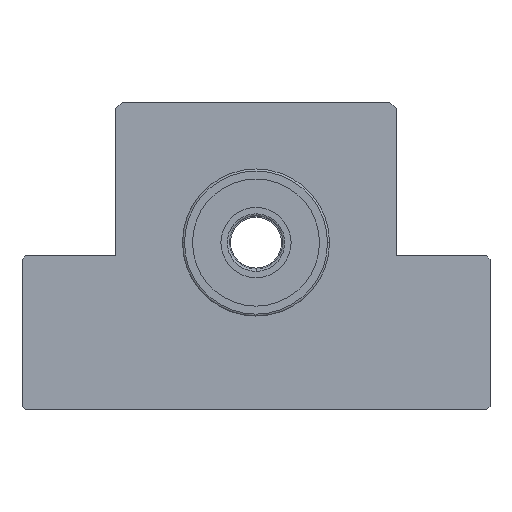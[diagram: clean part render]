
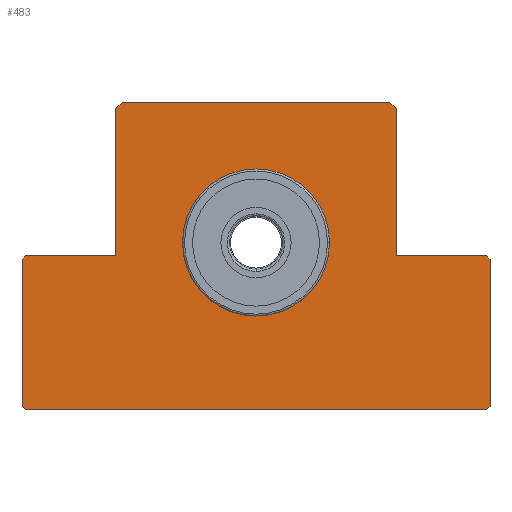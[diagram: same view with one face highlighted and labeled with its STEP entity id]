
A CAD part, top view. The second image highlights one B-rep face of the part: STEP entity #483.
In plain terms, the highlighted planar face has unit normal (0, 0, 1).
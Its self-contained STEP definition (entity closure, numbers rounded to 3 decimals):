
#50 = CARTESIAN_POINT ( 'NONE',  ( 0., 0., 20. ) ) ;
#53 = CARTESIAN_POINT ( 'NONE',  ( -20., 21., 20. ) ) ;
#77 = VECTOR ( 'NONE', #1355, 1000. ) ;
#82 = CARTESIAN_POINT ( 'NONE',  ( 34.5, -25., 20. ) ) ;
#118 = ORIENTED_EDGE ( 'NONE', *, *, #950, .T. ) ;
#136 = EDGE_CURVE ( 'NONE', #3075, #3227, #2360, .T. ) ;
#147 = ORIENTED_EDGE ( 'NONE', *, *, #1669, .T. ) ;
#153 = DIRECTION ( 'NONE',  ( -0.707, -0.707, 0. ) ) ;
#247 = EDGE_CURVE ( 'NONE', #2941, #1055, #1764, .T. ) ;
#286 = ORIENTED_EDGE ( 'NONE', *, *, #2149, .T. ) ;
#303 = CARTESIAN_POINT ( 'NONE',  ( 35., -2.5, 20. ) ) ;
#312 = FACE_OUTER_BOUND ( 'NONE', #1611, .T. ) ;
#335 = LINE ( 'NONE', #1631, #1048 ) ;
#376 = DIRECTION ( 'NONE',  ( 1., 0., 0. ) ) ;
#424 = LINE ( 'NONE', #2807, #1360 ) ;
#465 = VERTEX_POINT ( 'NONE', #2193 ) ;
#482 = ORIENTED_EDGE ( 'NONE', *, *, #2127, .T. ) ;
#483 = ADVANCED_FACE ( 'NONE', ( #312, #2226 ), #1368, .T. ) ;
#496 = EDGE_CURVE ( 'NONE', #1636, #1728, #2206, .T. ) ;
#510 = CARTESIAN_POINT ( 'NONE',  ( 11., 0., 20. ) ) ;
#513 = VERTEX_POINT ( 'NONE', #916 ) ;
#532 = ORIENTED_EDGE ( 'NONE', *, *, #136, .T. ) ;
#559 = VECTOR ( 'NONE', #3171, 1000. ) ;
#578 = VECTOR ( 'NONE', #2714, 1000. ) ;
#654 = LINE ( 'NONE', #1204, #1331 ) ;
#668 = EDGE_CURVE ( 'NONE', #1979, #465, #654, .T. ) ;
#684 = ORIENTED_EDGE ( 'NONE', *, *, #2287, .T. ) ;
#723 = AXIS2_PLACEMENT_3D ( 'NONE', #1262, #3090, #3327 ) ;
#739 = CARTESIAN_POINT ( 'NONE',  ( 0., 0., 20. ) ) ;
#748 = VERTEX_POINT ( 'NONE', #2479 ) ;
#760 = LINE ( 'NONE', #2642, #559 ) ;
#787 = DIRECTION ( 'NONE',  ( 0.707, -0.707, 0. ) ) ;
#791 = VERTEX_POINT ( 'NONE', #1736 ) ;
#794 = EDGE_CURVE ( 'NONE', #1728, #513, #2005, .T. ) ;
#827 = ORIENTED_EDGE ( 'NONE', *, *, #496, .T. ) ;
#845 = LINE ( 'NONE', #1344, #1662 ) ;
#849 = VECTOR ( 'NONE', #787, 1000. ) ;
#916 = CARTESIAN_POINT ( 'NONE',  ( 20., 21., 20. ) ) ;
#921 = VECTOR ( 'NONE', #2442, 1000. ) ;
#950 = EDGE_CURVE ( 'NONE', #3341, #2161, #335, .T. ) ;
#1001 = EDGE_CURVE ( 'NONE', #3227, #1713, #2972, .T. ) ;
#1005 = DIRECTION ( 'NONE',  ( 0., 1., 0. ) ) ;
#1048 = VECTOR ( 'NONE', #1348, 1000. ) ;
#1055 = VERTEX_POINT ( 'NONE', #3023 ) ;
#1096 = ORIENTED_EDGE ( 'NONE', *, *, #794, .T. ) ;
#1105 = CARTESIAN_POINT ( 'NONE',  ( -21., -2., 20. ) ) ;
#1139 = LINE ( 'NONE', #2791, #921 ) ;
#1175 = CARTESIAN_POINT ( 'NONE',  ( -35., -2.5, 20. ) ) ;
#1197 = CARTESIAN_POINT ( 'NONE',  ( 21., 20., 20. ) ) ;
#1204 = CARTESIAN_POINT ( 'NONE',  ( -21., -2., 20. ) ) ;
#1248 = CARTESIAN_POINT ( 'NONE',  ( -34.5, -25., 20. ) ) ;
#1262 = CARTESIAN_POINT ( 'NONE',  ( 0., 0., 20. ) ) ;
#1323 = AXIS2_PLACEMENT_3D ( 'NONE', #739, #2899, #1534 ) ;
#1331 = VECTOR ( 'NONE', #2257, 1000. ) ;
#1344 = CARTESIAN_POINT ( 'NONE',  ( 34.5, -2., 20. ) ) ;
#1348 = DIRECTION ( 'NONE',  ( -0.707, -0.707, 0. ) ) ;
#1350 = ORIENTED_EDGE ( 'NONE', *, *, #3261, .F. ) ;
#1355 = DIRECTION ( 'NONE',  ( -0.707, 0.707, 0. ) ) ;
#1360 = VECTOR ( 'NONE', #3068, 1000. ) ;
#1368 = PLANE ( 'NONE',  #2629 ) ;
#1385 = ORIENTED_EDGE ( 'NONE', *, *, #1001, .T. ) ;
#1396 = DIRECTION ( 'NONE',  ( 1., 0., 0. ) ) ;
#1399 = CARTESIAN_POINT ( 'NONE',  ( -35., -24.5, 20. ) ) ;
#1416 = EDGE_CURVE ( 'NONE', #791, #1636, #845, .T. ) ;
#1436 = VERTEX_POINT ( 'NONE', #2422 ) ;
#1534 = DIRECTION ( 'NONE',  ( 1., 0., 0. ) ) ;
#1611 = EDGE_LOOP ( 'NONE', ( #1096, #286, #118, #3208, #2487, #684, #482, #532, #1385, #147, #2433, #2691, #2319, #827 ) ) ;
#1631 = CARTESIAN_POINT ( 'NONE',  ( -20., 21., 20. ) ) ;
#1636 = VERTEX_POINT ( 'NONE', #2513 ) ;
#1656 = EDGE_LOOP ( 'NONE', ( #1350, #3297 ) ) ;
#1658 = CARTESIAN_POINT ( 'NONE',  ( -34.5, -25., 20. ) ) ;
#1662 = VECTOR ( 'NONE', #3207, 1000. ) ;
#1669 = EDGE_CURVE ( 'NONE', #1713, #3243, #424, .T. ) ;
#1713 = VERTEX_POINT ( 'NONE', #82 ) ;
#1714 = LINE ( 'NONE', #1175, #578 ) ;
#1728 = VERTEX_POINT ( 'NONE', #2236 ) ;
#1736 = CARTESIAN_POINT ( 'NONE',  ( 34.5, -2., 20. ) ) ;
#1754 = DIRECTION ( 'NONE',  ( -0.707, 0.707, 0. ) ) ;
#1764 = CIRCLE ( 'NONE', #723, 11. ) ;
#1804 = CARTESIAN_POINT ( 'NONE',  ( 35., -24.5, 20. ) ) ;
#1855 = LINE ( 'NONE', #303, #77 ) ;
#1948 = VECTOR ( 'NONE', #1754, 1000. ) ;
#1950 = DIRECTION ( 'NONE',  ( 0., 1., 0. ) ) ;
#1979 = VERTEX_POINT ( 'NONE', #1105 ) ;
#2005 = LINE ( 'NONE', #1197, #1948 ) ;
#2083 = LINE ( 'NONE', #2533, #2352 ) ;
#2102 = VECTOR ( 'NONE', #1396, 1000. ) ;
#2106 = CARTESIAN_POINT ( 'NONE',  ( -35., -24.5, 20. ) ) ;
#2127 = EDGE_CURVE ( 'NONE', #748, #3075, #1714, .T. ) ;
#2149 = EDGE_CURVE ( 'NONE', #513, #3341, #1139, .T. ) ;
#2161 = VERTEX_POINT ( 'NONE', #2457 ) ;
#2193 = CARTESIAN_POINT ( 'NONE',  ( -34.5, -2., 20. ) ) ;
#2206 = LINE ( 'NONE', #3265, #2349 ) ;
#2226 = FACE_BOUND ( 'NONE', #1656, .T. ) ;
#2236 = CARTESIAN_POINT ( 'NONE',  ( 21., 20., 20. ) ) ;
#2257 = DIRECTION ( 'NONE',  ( -1., 0., 0. ) ) ;
#2287 = EDGE_CURVE ( 'NONE', #465, #748, #2083, .T. ) ;
#2309 = LINE ( 'NONE', #3376, #2440 ) ;
#2319 = ORIENTED_EDGE ( 'NONE', *, *, #1416, .T. ) ;
#2349 = VECTOR ( 'NONE', #1950, 1000. ) ;
#2352 = VECTOR ( 'NONE', #153, 1000. ) ;
#2360 = LINE ( 'NONE', #2106, #849 ) ;
#2411 = EDGE_CURVE ( 'NONE', #1436, #791, #1855, .T. ) ;
#2422 = CARTESIAN_POINT ( 'NONE',  ( 35., -2.5, 20. ) ) ;
#2433 = ORIENTED_EDGE ( 'NONE', *, *, #2894, .T. ) ;
#2440 = VECTOR ( 'NONE', #1005, 1000. ) ;
#2442 = DIRECTION ( 'NONE',  ( -1., 0., 0. ) ) ;
#2457 = CARTESIAN_POINT ( 'NONE',  ( -21., 20., 20. ) ) ;
#2479 = CARTESIAN_POINT ( 'NONE',  ( -35., -2.5, 20. ) ) ;
#2487 = ORIENTED_EDGE ( 'NONE', *, *, #668, .T. ) ;
#2513 = CARTESIAN_POINT ( 'NONE',  ( 21., -2., 20. ) ) ;
#2533 = CARTESIAN_POINT ( 'NONE',  ( -34.5, -2., 20. ) ) ;
#2629 = AXIS2_PLACEMENT_3D ( 'NONE', #50, #3014, #376 ) ;
#2642 = CARTESIAN_POINT ( 'NONE',  ( -21., 20., 20. ) ) ;
#2691 = ORIENTED_EDGE ( 'NONE', *, *, #2411, .T. ) ;
#2714 = DIRECTION ( 'NONE',  ( 0., -1., 0. ) ) ;
#2791 = CARTESIAN_POINT ( 'NONE',  ( 20., 21., 20. ) ) ;
#2807 = CARTESIAN_POINT ( 'NONE',  ( 34.5, -25., 20. ) ) ;
#2839 = CIRCLE ( 'NONE', #1323, 11. ) ;
#2894 = EDGE_CURVE ( 'NONE', #3243, #1436, #2309, .T. ) ;
#2899 = DIRECTION ( 'NONE',  ( 0., 0., 1. ) ) ;
#2908 = EDGE_CURVE ( 'NONE', #2161, #1979, #760, .T. ) ;
#2941 = VERTEX_POINT ( 'NONE', #510 ) ;
#2972 = LINE ( 'NONE', #1658, #2102 ) ;
#3014 = DIRECTION ( 'NONE',  ( 0., 0., 1. ) ) ;
#3023 = CARTESIAN_POINT ( 'NONE',  ( -11., 0., 20. ) ) ;
#3068 = DIRECTION ( 'NONE',  ( 0.707, 0.707, 0. ) ) ;
#3075 = VERTEX_POINT ( 'NONE', #1399 ) ;
#3090 = DIRECTION ( 'NONE',  ( 0., 0., 1. ) ) ;
#3171 = DIRECTION ( 'NONE',  ( 0., -1., 0. ) ) ;
#3207 = DIRECTION ( 'NONE',  ( -1., 0., 0. ) ) ;
#3208 = ORIENTED_EDGE ( 'NONE', *, *, #2908, .T. ) ;
#3227 = VERTEX_POINT ( 'NONE', #1248 ) ;
#3243 = VERTEX_POINT ( 'NONE', #1804 ) ;
#3261 = EDGE_CURVE ( 'NONE', #1055, #2941, #2839, .T. ) ;
#3265 = CARTESIAN_POINT ( 'NONE',  ( 21., -2., 20. ) ) ;
#3297 = ORIENTED_EDGE ( 'NONE', *, *, #247, .F. ) ;
#3327 = DIRECTION ( 'NONE',  ( 1., 0., 0. ) ) ;
#3341 = VERTEX_POINT ( 'NONE', #53 ) ;
#3376 = CARTESIAN_POINT ( 'NONE',  ( 35., -24.5, 20. ) ) ;
